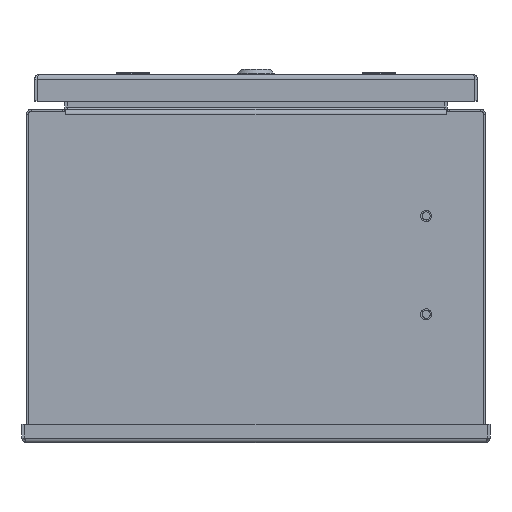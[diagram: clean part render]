
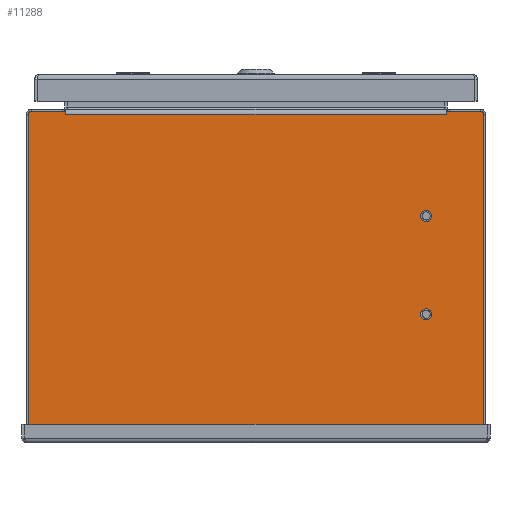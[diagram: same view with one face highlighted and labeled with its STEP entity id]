
A CAD part, front view. The second image highlights one B-rep face of the part: STEP entity #11288.
In plain terms, the highlighted planar face has unit normal (0, -1, 0).
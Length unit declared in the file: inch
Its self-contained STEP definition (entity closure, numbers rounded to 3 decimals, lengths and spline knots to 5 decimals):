
#9951=CARTESIAN_POINT('',(-6.857,0.,4.857));
#9952=DIRECTION('',(0.,-1.,0.));
#9953=DIRECTION('',(0.,0.,1.));
#9954=AXIS2_PLACEMENT_3D('',#9951,#9952,#9953);
#9959=DIRECTION('',(-1.,0.,0.));
#9960=VECTOR('',#9959,1.02894);
#9961=CARTESIAN_POINT('',(-5.82806,0.,4.937));
#9962=LINE('',#9961,#9960);
#9966=DIRECTION('',(0.174,0.,-0.985));
#9967=VECTOR('',#9966,0.08326);
#9968=CARTESIAN_POINT('',(-5.82806,0.,4.937));
#9969=LINE('',#9968,#9967);
#9973=DIRECTION('',(-1.,0.,0.));
#9974=VECTOR('',#9973,0.0156);
#9975=CARTESIAN_POINT('',(-5.798,0.,4.855));
#9976=LINE('',#9975,#9974);
#9980=DIRECTION('',(1.,0.,0.));
#9981=VECTOR('',#9980,0.0156);
#9982=CARTESIAN_POINT('',(5.798,0.,4.855));
#9983=LINE('',#9982,#9981);
#9987=DIRECTION('',(-0.174,0.,-0.985));
#9988=VECTOR('',#9987,0.08326);
#9989=CARTESIAN_POINT('',(5.82806,0.,4.937));
#9990=LINE('',#9989,#9988);
#9994=DIRECTION('',(-1.,0.,0.));
#9995=VECTOR('',#9994,1.02894);
#9996=CARTESIAN_POINT('',(6.857,0.,4.937));
#9997=LINE('',#9996,#9995);
#10001=CARTESIAN_POINT('',(6.857,0.,4.857));
#10002=DIRECTION('',(0.,-1.,0.));
#10003=DIRECTION('',(1.,0.,0.));
#10004=AXIS2_PLACEMENT_3D('',#10001,#10002,#10003);
#10009=DIRECTION('',(0.,0.,1.));
#10010=VECTOR('',#10009,9.714);
#10011=CARTESIAN_POINT('',(6.937,0.,-4.857));
#10012=LINE('',#10011,#10010);
#10016=CARTESIAN_POINT('',(6.857,0.,-4.857));
#10017=DIRECTION('',(0.,-1.,0.));
#10018=DIRECTION('',(0.,0.,-1.));
#10019=AXIS2_PLACEMENT_3D('',#10016,#10017,#10018);
#10024=DIRECTION('',(1.,0.,0.));
#10025=VECTOR('',#10024,13.714);
#10026=CARTESIAN_POINT('',(-6.857,0.,-4.937));
#10027=LINE('',#10026,#10025);
#10031=CARTESIAN_POINT('',(-6.857,0.,-4.857));
#10032=DIRECTION('',(0.,-1.,0.));
#10033=DIRECTION('',(-1.,0.,0.));
#10034=AXIS2_PLACEMENT_3D('',#10031,#10032,#10033);
#10039=DIRECTION('',(0.,0.,-1.));
#10040=VECTOR('',#10039,9.714);
#10041=CARTESIAN_POINT('',(-6.937,0.,4.857));
#10042=LINE('',#10041,#10040);
#10046=CARTESIAN_POINT('',(5.1875,0.,1.75));
#10047=DIRECTION('',(0.,1.,0.));
#10048=DIRECTION('',(0.,0.,-1.));
#10049=AXIS2_PLACEMENT_3D('',#10046,#10047,#10048);
#10054=CARTESIAN_POINT('',(5.1875,0.,1.75));
#10055=DIRECTION('',(0.,1.,0.));
#10056=DIRECTION('',(0.,0.,1.));
#10057=AXIS2_PLACEMENT_3D('',#10054,#10055,#10056);
#10062=CARTESIAN_POINT('',(5.1875,0.,-1.25));
#10063=DIRECTION('',(0.,1.,0.));
#10064=DIRECTION('',(0.,0.,-1.));
#10065=AXIS2_PLACEMENT_3D('',#10062,#10063,#10064);
#10070=CARTESIAN_POINT('',(5.1875,0.,-1.25));
#10071=DIRECTION('',(0.,1.,0.));
#10072=DIRECTION('',(0.,0.,1.));
#10073=AXIS2_PLACEMENT_3D('',#10070,#10071,#10072);
#10384=DIRECTION('',(1.,0.,0.));
#10385=VECTOR('',#10384,11.596);
#10386=CARTESIAN_POINT('',(-5.798,0.,4.855));
#10387=LINE('',#10386,#10385);
#11073=CARTESIAN_POINT('',(5.798,0.,4.855));
#11074=CARTESIAN_POINT('',(5.8136,0.,4.855));
#11075=VERTEX_POINT('',#11073);
#11076=VERTEX_POINT('',#11074);
#11077=CARTESIAN_POINT('',(5.82806,0.,4.937));
#11078=VERTEX_POINT('',#11077);
#11085=CARTESIAN_POINT('',(-5.798,0.,4.855));
#11086=CARTESIAN_POINT('',(-5.8136,0.,4.855));
#11087=VERTEX_POINT('',#11085);
#11088=VERTEX_POINT('',#11086);
#11089=CARTESIAN_POINT('',(-5.82806,0.,4.937));
#11090=VERTEX_POINT('',#11089);
#11149=CARTESIAN_POINT('',(-6.857,0.,4.937));
#11150=CARTESIAN_POINT('',(-6.937,0.,4.857));
#11151=VERTEX_POINT('',#11149);
#11152=VERTEX_POINT('',#11150);
#11157=CARTESIAN_POINT('',(-6.937,0.,-4.857));
#11158=CARTESIAN_POINT('',(-6.857,0.,-4.937));
#11159=VERTEX_POINT('',#11157);
#11160=VERTEX_POINT('',#11158);
#11165=CARTESIAN_POINT('',(6.857,0.,-4.937));
#11166=CARTESIAN_POINT('',(6.937,0.,-4.857));
#11167=VERTEX_POINT('',#11165);
#11168=VERTEX_POINT('',#11166);
#11173=CARTESIAN_POINT('',(6.937,0.,4.857));
#11174=CARTESIAN_POINT('',(6.857,0.,4.937));
#11175=VERTEX_POINT('',#11173);
#11176=VERTEX_POINT('',#11174);
#11225=CARTESIAN_POINT('',(5.1875,0.,1.62495));
#11226=CARTESIAN_POINT('',(5.1875,0.,1.87505));
#11227=VERTEX_POINT('',#11225);
#11228=VERTEX_POINT('',#11226);
#11229=CARTESIAN_POINT('',(5.1875,0.,-1.37505));
#11230=CARTESIAN_POINT('',(5.1875,0.,-1.12495));
#11231=VERTEX_POINT('',#11229);
#11232=VERTEX_POINT('',#11230);
#11241=CARTESIAN_POINT('',(0.,0.,0.));
#11242=DIRECTION('',(0.,-1.,0.));
#11243=DIRECTION('',(-1.,0.,0.));
#11244=AXIS2_PLACEMENT_3D('',#11241,#11242,#11243);
#11245=PLANE('',#11244);
#11247=ORIENTED_EDGE('',*,*,#11246,.F.);
#11249=ORIENTED_EDGE('',*,*,#11248,.F.);
#11251=ORIENTED_EDGE('',*,*,#11250,.T.);
#11253=ORIENTED_EDGE('',*,*,#11252,.F.);
#11255=ORIENTED_EDGE('',*,*,#11254,.T.);
#11257=ORIENTED_EDGE('',*,*,#11256,.T.);
#11259=ORIENTED_EDGE('',*,*,#11258,.F.);
#11261=ORIENTED_EDGE('',*,*,#11260,.F.);
#11263=ORIENTED_EDGE('',*,*,#11262,.F.);
#11265=ORIENTED_EDGE('',*,*,#11264,.F.);
#11267=ORIENTED_EDGE('',*,*,#11266,.F.);
#11269=ORIENTED_EDGE('',*,*,#11268,.F.);
#11271=ORIENTED_EDGE('',*,*,#11270,.F.);
#11273=ORIENTED_EDGE('',*,*,#11272,.F.);
#11274=EDGE_LOOP('',(#11247,#11249,#11251,#11253,#11255,#11257,#11259,#11261,
#11263,#11265,#11267,#11269,#11271,#11273));
#11275=FACE_OUTER_BOUND('',#11274,.F.);
#11277=ORIENTED_EDGE('',*,*,#11276,.F.);
#11279=ORIENTED_EDGE('',*,*,#11278,.F.);
#11280=EDGE_LOOP('',(#11277,#11279));
#11281=FACE_BOUND('',#11280,.F.);
#11283=ORIENTED_EDGE('',*,*,#11282,.F.);
#11285=ORIENTED_EDGE('',*,*,#11284,.F.);
#11286=EDGE_LOOP('',(#11283,#11285));
#11287=FACE_BOUND('',#11286,.F.);
#9955=CIRCLE('',#9954,0.08);
#10005=CIRCLE('',#10004,0.08);
#10020=CIRCLE('',#10019,0.08);
#10035=CIRCLE('',#10034,0.08);
#10050=CIRCLE('',#10049,0.12505);
#10058=CIRCLE('',#10057,0.12505);
#10066=CIRCLE('',#10065,0.12505);
#10074=CIRCLE('',#10073,0.12505);
#11246=EDGE_CURVE('',#11151,#11152,#9955,.T.);
#11248=EDGE_CURVE('',#11090,#11151,#9962,.T.);
#11250=EDGE_CURVE('',#11090,#11088,#9969,.T.);
#11252=EDGE_CURVE('',#11087,#11088,#9976,.T.);
#11254=EDGE_CURVE('',#11087,#11075,#10387,.T.);
#11256=EDGE_CURVE('',#11075,#11076,#9983,.T.);
#11258=EDGE_CURVE('',#11078,#11076,#9990,.T.);
#11260=EDGE_CURVE('',#11176,#11078,#9997,.T.);
#11262=EDGE_CURVE('',#11175,#11176,#10005,.T.);
#11264=EDGE_CURVE('',#11168,#11175,#10012,.T.);
#11266=EDGE_CURVE('',#11167,#11168,#10020,.T.);
#11268=EDGE_CURVE('',#11160,#11167,#10027,.T.);
#11270=EDGE_CURVE('',#11159,#11160,#10035,.T.);
#11272=EDGE_CURVE('',#11152,#11159,#10042,.T.);
#11276=EDGE_CURVE('',#11227,#11228,#10050,.T.);
#11278=EDGE_CURVE('',#11228,#11227,#10058,.T.);
#11282=EDGE_CURVE('',#11231,#11232,#10066,.T.);
#11284=EDGE_CURVE('',#11232,#11231,#10074,.T.);
#11288=ADVANCED_FACE('',(#11275,#11281,#11287),#11245,.T.);
